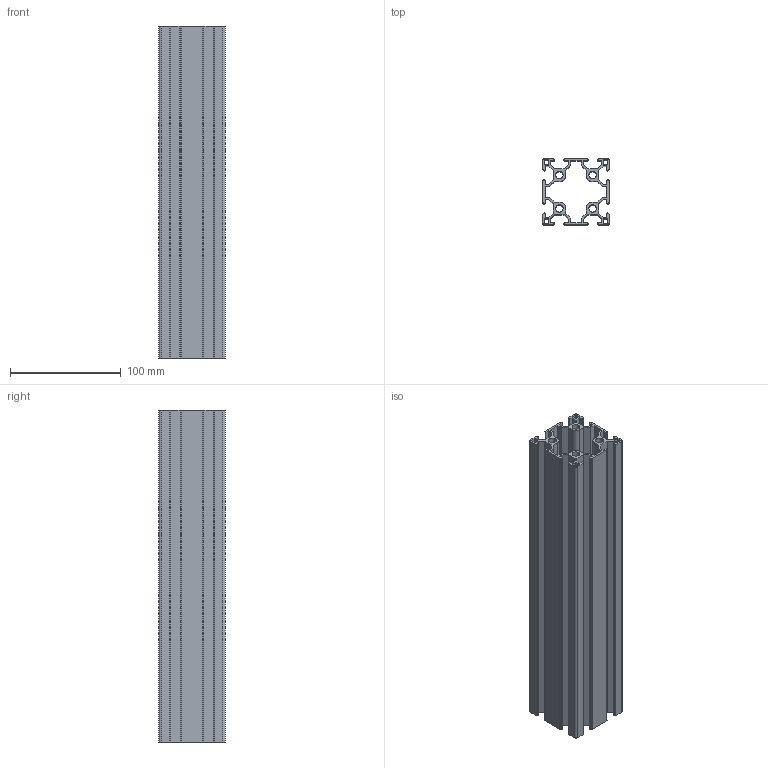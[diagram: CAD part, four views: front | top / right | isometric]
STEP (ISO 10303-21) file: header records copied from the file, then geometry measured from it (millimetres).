
FILE_DESCRIPTION (( 'STEP AP203' ), '1' );
FILE_NAME ('CE-6060-8(新款).STEP', '2023-07-12T02:23:43', ( '微软用户' ), ( '微软中国' ), 'SwSTEP 2.0', 'SolidWorks 2017', '' );
FILE_SCHEMA (( 'CONFIG_CONTROL_DESIGN' ));
Length unit declared in the file: millimetre
Products named in the file (1): CE-6060-8(陔遴)
Bounding box: 60 x 60 x 300 mm (x, y, z)
Volume: 252182.1 mm3; surface area: 247254.9 mm2
Topology: 1 solids, 1 shells, 202 faces, 600 edges, 400 vertices
Faces by surface type: plane 146, cylinder 56
Entity records: 6849 total; most frequent: CARTESIAN_POINT 1203, ORIENTED_EDGE 1200, DIRECTION 1118, EDGE_CURVE 600, LINE 488, VECTOR 488, VERTEX_POINT 400, AXIS2_PLACEMENT_3D 315
